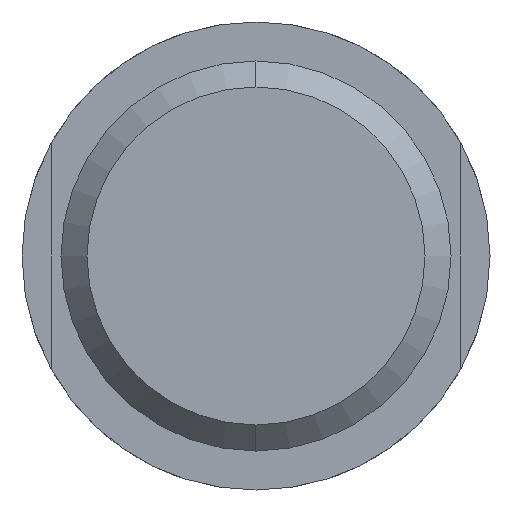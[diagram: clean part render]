
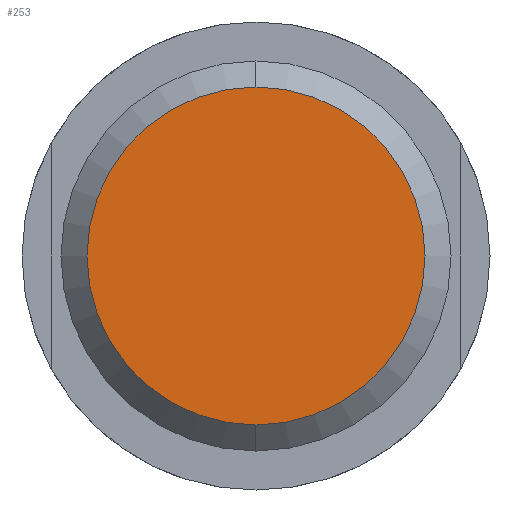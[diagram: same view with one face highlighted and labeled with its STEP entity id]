
A CAD part, left-side view. The second image highlights one B-rep face of the part: STEP entity #253.
In plain terms, the highlighted planar face has unit normal (-1, 0, 0).
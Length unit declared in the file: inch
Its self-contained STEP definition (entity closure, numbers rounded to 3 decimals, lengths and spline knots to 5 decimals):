
#88 = FACE_OUTER_BOUND ( 'NONE', #1382, .T. ) ;
#159 = CIRCLE ( 'NONE', #1093, 0.5417 ) ;
#179 = CIRCLE ( 'NONE', #1126, 0.5417 ) ;
#253 = ADVANCED_FACE ( 'NONE', ( #88 ), #346, .F. ) ;
#346 = PLANE ( 'NONE',  #914 ) ;
#370 = CARTESIAN_POINT ( 'NONE',  ( 0.036, 0., 0.5417 ) ) ;
#568 = DIRECTION ( 'NONE',  ( 0., 0., -1. ) ) ;
#569 = DIRECTION ( 'NONE',  ( 1., 0., 0. ) ) ;
#600 = DIRECTION ( 'NONE',  ( 0., 0., -1. ) ) ;
#601 = DIRECTION ( 'NONE',  ( 1., 0., 0. ) ) ;
#664 = CARTESIAN_POINT ( 'NONE',  ( 0.036, 0., 0. ) ) ;
#696 = CARTESIAN_POINT ( 'NONE',  ( 0.036, 0., -0.5417 ) ) ;
#702 = CARTESIAN_POINT ( 'NONE',  ( 0.036, 0.1875, 0. ) ) ;
#703 = DIRECTION ( 'NONE',  ( 1., 0., 0. ) ) ;
#765 = CARTESIAN_POINT ( 'NONE',  ( 0.036, 0., 0. ) ) ;
#789 = DIRECTION ( 'NONE',  ( 0., 0., -1. ) ) ;
#861 = EDGE_CURVE ( 'NONE', #1310, #1246, #159, .T. ) ;
#868 = EDGE_CURVE ( 'NONE', #1246, #1310, #179, .T. ) ;
#914 = AXIS2_PLACEMENT_3D ( 'NONE', #702, #703, #789 ) ;
#1093 = AXIS2_PLACEMENT_3D ( 'NONE', #664, #569, #568 ) ;
#1126 = AXIS2_PLACEMENT_3D ( 'NONE', #765, #601, #600 ) ;
#1246 = VERTEX_POINT ( 'NONE', #370 ) ;
#1310 = VERTEX_POINT ( 'NONE', #696 ) ;
#1382 = EDGE_LOOP ( 'NONE', ( #1438, #1474 ) ) ;
#1438 = ORIENTED_EDGE ( 'NONE', *, *, #861, .F. ) ;
#1474 = ORIENTED_EDGE ( 'NONE', *, *, #868, .F. ) ;
